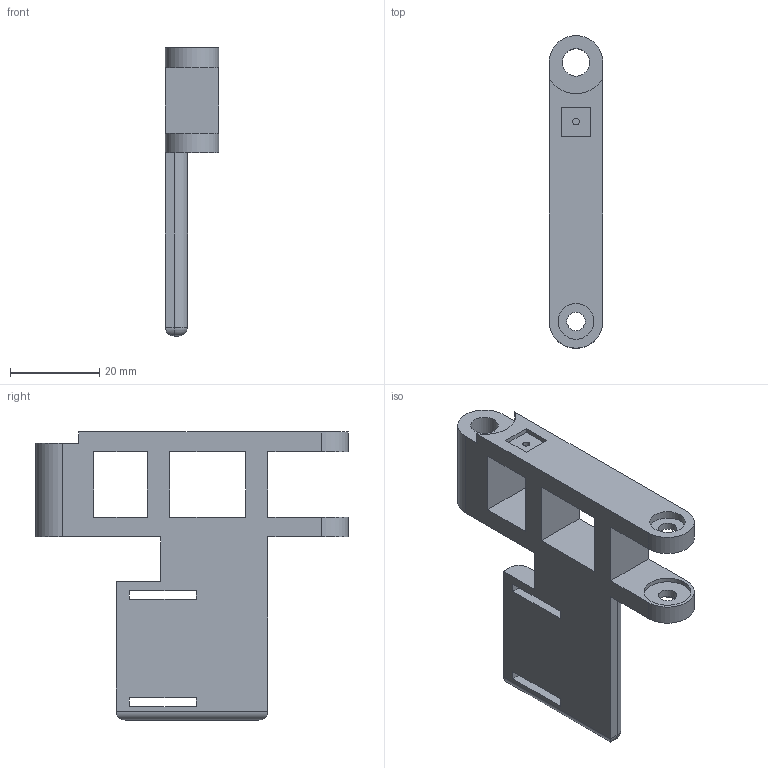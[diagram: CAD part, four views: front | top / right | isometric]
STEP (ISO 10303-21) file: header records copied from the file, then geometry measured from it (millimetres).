
FILE_DESCRIPTION (( 'STEP AP214' ), '1' );
FILE_NAME ('right-hand-left-finger-inner-link.step', '2026-11-14T03:55:01', ( '' ), ( '' ), 'SwSTEP 2.0', 'SolidWorks 2024', '' );
FILE_SCHEMA (( 'AUTOMOTIVE_DESIGN' ));
Length unit declared in the file: millimetre
Products named in the file (1): right-hand-left-finger-inner-link
Bounding box: 12 x 70 x 64.5 mm (x, y, z)
Volume: 15526.6 mm3; surface area: 9384.5 mm2
Topology: 1 solids, 1 shells, 64 faces, 168 edges, 109 vertices
Faces by surface type: plane 45, cylinder 17, torus 2
Full cylindrical faces by diameter (mm): 1.5 x1, 4.1 x2, 6.16 x1, 8 x1, 10.5 x2
Entity records: 1945 total; most frequent: CARTESIAN_POINT 335, DIRECTION 318, ORIENTED_EDGE 316, EDGE_CURVE 158, VECTOR 124, LINE 124, VERTEX_POINT 106, AXIS2_PLACEMENT_3D 97
